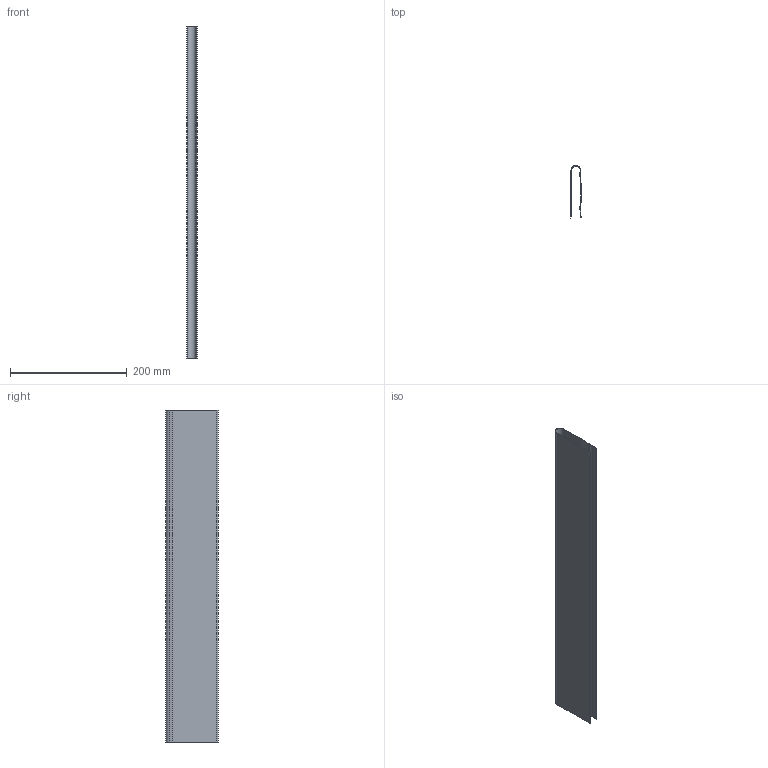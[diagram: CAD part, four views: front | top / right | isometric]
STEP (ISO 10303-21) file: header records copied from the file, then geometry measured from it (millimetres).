
FILE_DESCRIPTION (( 'STEP AP214' ), '1' );
FILE_NAME ('_Duowing NL600.step', '2010-07-14T13:30:49', ( 'grass' ), ( '' ), 'SwSTEP 2.0', 'SolidWorks 2010', '' );
FILE_SCHEMA (( 'AUTOMOTIVE_DESIGN' ));
Length unit declared in the file: millimetre
Products named in the file (1): _Duowing NL600
Bounding box: 18.64 x 90.48 x 568 mm (x, y, z)
Volume: 80419.8 mm3; surface area: 215588 mm2
Topology: 1 solids, 1 shells, 54 faces, 108 edges, 56 vertices
Faces by surface type: plane 36, cylinder 18
Entity records: 1378 total; most frequent: DIRECTION 254, CARTESIAN_POINT 219, ORIENTED_EDGE 216, EDGE_CURVE 108, AXIS2_PLACEMENT_3D 91, LINE 72, VECTOR 72, VERTEX_POINT 56
